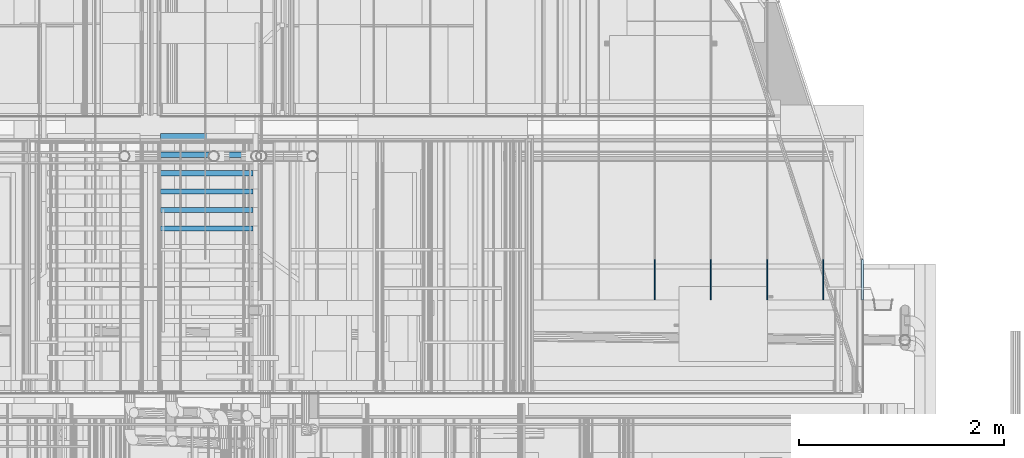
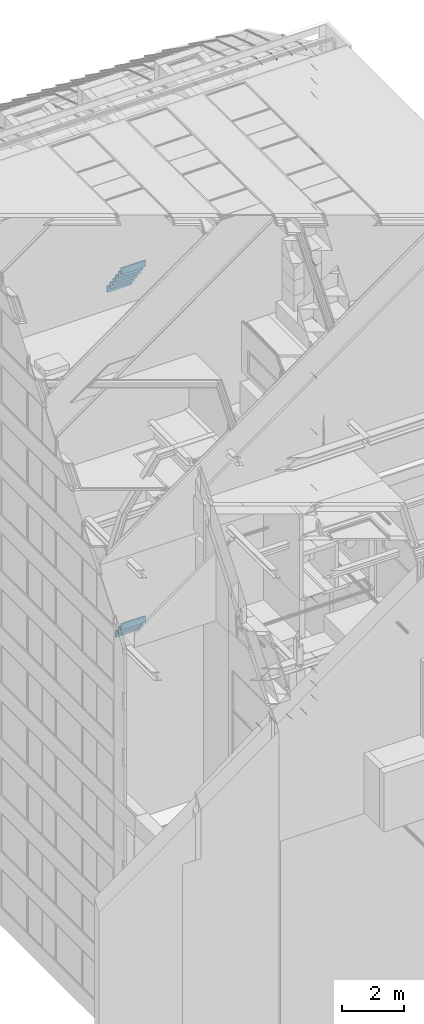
# One storey, part 310 of 583: 34 slabs.
"""IFC2X3 building model written with IfcOpenShell, lengths in metres."""

import ifcopenshell
import ifcopenshell.guid

model = None  # the IFC model being written
_history = None  # IfcOwnerHistory: only IFC2X3 demands one
_inside = {}  # id of a spatial element -> (the spatial element, [elements in it])
_under = {}  # id of a project, library or spatial element -> (it, [spatial elements below it])
_declared = {}  # id of a project -> (the project, [libraries it declares])
_typed = {}  # id of a type object -> (the type object, [elements of that type])
_made_of = {}  # id of a material, layer set ... -> (it, [elements and type objects made of it])


def new_model(schema):
    """Start an empty IFC model of exactly this schema.

    Asked for "IFC4X3", IfcOpenShell would pick the latest addendum, in which some entities
    have other attributes; the version numbers below select the first issue.
    IFC2X3 requires an IfcOwnerHistory on every rooted entity: one is made here for all.
    """
    global model, _history
    if schema == "IFC4X3":
        model = ifcopenshell.file(schema_version=(4, 3, 0, 0))
    else:
        model = ifcopenshell.file(schema=schema)
    _inside.clear()
    _under.clear()
    _declared.clear()
    _typed.clear()
    _made_of.clear()
    _history = None
    if model.schema == "IFC2X3":
        org = make("IfcOrganization", Name="unknown")
        user = make(
            "IfcPersonAndOrganization",
            ThePerson=make("IfcPerson", FamilyName="unknown"),
            TheOrganization=org,
        )
        app = make(
            "IfcApplication",
            ApplicationDeveloper=org,
            Version="unknown",
            ApplicationFullName="unknown",
            ApplicationIdentifier="unknown",
        )
        _history = make(
            "IfcOwnerHistory",
            OwningUser=user,
            OwningApplication=app,
            ChangeAction="ADDED",
            CreationDate=0,
        )
    return model


def make(cls, **values):
    """One entity of the class cls with the attributes given. An attribute that is None is left unset."""
    return model.create_entity(
        cls, **{name: value for name, value in values.items() if value is not None}
    )


def entity(cls, *values):
    """Any entity or typed value of the class cls, its attributes in the order of the schema. None: left unset."""
    e = model.create_entity(cls)
    for i, value in enumerate(values):
        if value is not None:
            e[i] = value
    return e


def rooted(cls, **values):
    """An entity with a GlobalId (a new one), such as an element, a storey or a relation."""
    return make(cls, GlobalId=ifcopenshell.guid.new(), OwnerHistory=_history, **values)


def si_unit(unit_type, name, prefix=None):
    """IfcSIUnit, for example si_unit("LENGTHUNIT", "METRE", prefix="MILLI")."""
    return make("IfcSIUnit", UnitType=unit_type, Prefix=prefix, Name=name)


def converted_unit(unit_type, name, factor, base, dimensions=None, offset=None):
    """IfcConversionBasedUnit, such as the inch: factor (a typed value) times the base unit."""
    return make(
        "IfcConversionBasedUnit"
        if offset is None
        else "IfcConversionBasedUnitWithOffset",
        ConversionOffset=offset,
        Dimensions=None
        if dimensions is None
        else entity("IfcDimensionalExponents", *dimensions),
        UnitType=unit_type,
        Name=name,
        ConversionFactor=make(
            "IfcMeasureWithUnit", ValueComponent=factor, UnitComponent=base
        ),
    )


def derived_unit(unit_type, elements):
    """IfcDerivedUnit: a product of units, each with its exponent."""
    return make(
        "IfcDerivedUnit",
        Elements=[
            make("IfcDerivedUnitElement", Unit=unit, Exponent=power)
            for unit, power in elements
        ],
        UnitType=unit_type,
    )


def money_unit(currency):
    """IfcMonetaryUnit."""
    return make("IfcMonetaryUnit", Currency=currency)


def assignment(units):
    """IfcUnitAssignment: the units of a project."""
    return None if units is None else make("IfcUnitAssignment", Units=units)


def point(xyz):
    """IfcCartesianPoint."""
    return None if xyz is None else make("IfcCartesianPoint", Coordinates=xyz)


def direction(xyz):
    """IfcDirection."""
    return None if xyz is None else make("IfcDirection", DirectionRatios=xyz)


def frame(location, z_axis=None, x_axis=None):
    """IfcAxis2Placement3D, a coordinate frame: its origin and axes. An axis left out is left unset."""
    return make(
        "IfcAxis2Placement3D",
        Location=point(location),
        Axis=direction(z_axis),
        RefDirection=direction(x_axis),
    )


def origin_with_axes():
    """The frame at (0, 0, 0) with the z axis (0, 0, 1) and the x axis (1, 0, 0) written out."""
    return frame((0.0, 0.0, 0.0), z_axis=(0.0, 0.0, 1.0), x_axis=(1.0, 0.0, 0.0))


def place(relative_to, where):
    """IfcLocalPlacement: puts the frame where relative to a parent placement (None: the world)."""
    return make(
        "IfcLocalPlacement", PlacementRelTo=relative_to, RelativePlacement=where
    )


def context(
    kind, dimensions, precision=None, world=None, true_north=None, identifier=None
):
    """IfcGeometricRepresentationContext, for example the 3D "Model" context."""
    return make(
        "IfcGeometricRepresentationContext",
        ContextIdentifier=identifier,
        ContextType=kind,
        CoordinateSpaceDimension=dimensions,
        Precision=precision,
        WorldCoordinateSystem=world,
        TrueNorth=true_north,
    )


def subcontext(parent, identifier, kind, view, scale=None):
    """IfcGeometricRepresentationSubContext, for example "Body" below "Model"."""
    return make(
        "IfcGeometricRepresentationSubContext",
        ContextIdentifier=identifier,
        ContextType=kind,
        ParentContext=parent,
        TargetScale=scale,
        TargetView=view,
    )


def project(units=None, contexts=None):
    """IfcProject with its units and contexts."""
    return rooted(
        "IfcProject",
        Name="project",
        RepresentationContexts=contexts,
        UnitsInContext=assignment(units),
    )


def spatial(cls, under=None, at=None, **own):
    """A site, building, storey or space (cls), placed at a placement, below another one or the project."""
    s = rooted(cls, ObjectPlacement=at, **own)
    if under is not None:
        _under.setdefault(under.id(), (under, []))[1].append(s)
    return s


def faces_of(points, faces, orient=None, outer=None):
    """IfcFace entities. A face is a list of loops; a loop is a list of indices into points, from 0.

    orient and outer hold one flag for each loop. By default every Orientation is true, the
    first loop of a face is its IfcFaceOuterBound and the others are IfcFaceBound.
    """
    made = []
    for i, loops in enumerate(faces):
        bounds = []
        for j, loop in enumerate(loops):
            is_outer = j == 0 if outer is None else outer[i][j]
            bounds.append(
                make(
                    "IfcFaceOuterBound" if is_outer else "IfcFaceBound",
                    Bound=make("IfcPolyLoop", Polygon=[points[k] for k in loop]),
                    Orientation=True if orient is None else orient[i][j],
                )
            )
        made.append(make("IfcFace", Bounds=bounds))
    return made


def faceted_brep(points, faces, orient=None, outer=None, voids=None):
    """IfcFacetedBrep: a solid bounded by flat faces; with voids (closed shells), ...WithVoids."""
    shared = [point(p) for p in points]
    hull = make("IfcClosedShell", CfsFaces=faces_of(shared, faces, orient, outer))
    if voids is None:
        return make("IfcFacetedBrep", Outer=hull)
    return make(
        "IfcFacetedBrepWithVoids",
        Outer=hull,
        Voids=[
            make(cls, CfsFaces=faces_of(shared, fs, o, b)) for cls, fs, o, b in voids
        ],
    )


def shape(context_of_items, identifier, shape_type, items):
    """IfcShapeRepresentation: the items that make up one representation, for example the "Body"."""
    return make(
        "IfcShapeRepresentation",
        ContextOfItems=context_of_items,
        RepresentationIdentifier=identifier,
        RepresentationType=shape_type,
        Items=items,
    )


def material(Name=None, Category=None):
    """IfcMaterial."""
    return make("IfcMaterial", Name=Name, Category=Category)


def made_of(thing, what):
    """Note that an element or type object is made of a material, layer set ...; save() writes the relation."""
    if what is not None:
        _made_of.setdefault(what.id(), (what, []))[1].append(thing)
    return thing


def type_object(cls, material=None, **own):
    """A type object (cls), such as IfcWallType, which elements share."""
    return made_of(rooted(cls, **own), material)


def element(
    cls,
    number,
    at=None,
    inside=None,
    cuts=None,
    type_object=None,
    material=None,
    context=None,
    identifier="Body",
    shape_type=None,
    held_by="IfcProductDefinitionShape",
    body=None,
    shapes=None,
    **own,
):
    """One element of the class cls, such as IfcWall. Its Tag is "e" and its number.

    at: its placement. inside: the storey or other place that contains it. cuts: it is an
    opening in that element (IfcRelVoidsElement). A single representation is given by context,
    identifier, shape_type and body (its items); several are given by shapes. held_by: the class
    of the entity that holds the representations. save() writes the other relations.
    """
    e = rooted(cls, Tag="e%d" % number, ObjectPlacement=at, **own)
    if body is not None:
        shapes = [shape(context, identifier, shape_type, body)]
    if shapes is not None:
        e.Representation = make(held_by, Representations=shapes)
    if inside is not None:
        _inside.setdefault(inside.id(), (inside, []))[1].append(e)
    if cuts is not None:
        rooted(
            "IfcRelVoidsElement", RelatingBuildingElement=cuts, RelatedOpeningElement=e
        )
    if type_object is not None:
        _typed.setdefault(type_object.id(), (type_object, []))[1].append(e)
    return made_of(e, material)


def aggregate(whole, parts):
    """IfcRelAggregates: a whole, such as a stair, and the parts it consists of."""
    return rooted("IfcRelAggregates", RelatingObject=whole, RelatedObjects=parts)


def save(model, path):
    """Write the relations noted so far, then the file.

    IfcRelAggregates (storeys below a building ...), IfcRelContainedInSpatialStructure (elements
    in a storey), IfcRelDefinesByType, IfcRelAssociatesMaterial and IfcRelDeclares: one each for
    every whole, place, type object, material and project.
    """
    for whole, parts in _under.values():
        aggregate(whole, parts)
    for where, things in _inside.values():
        rooted(
            "IfcRelContainedInSpatialStructure",
            RelatedElements=things,
            RelatingStructure=where,
        )
    for kind, things in _typed.values():
        rooted("IfcRelDefinesByType", RelatedObjects=things, RelatingType=kind)
    for what, things in _made_of.values():
        rooted("IfcRelAssociatesMaterial", RelatedObjects=things, RelatingMaterial=what)
    for by, libraries in _declared.values():
        rooted("IfcRelDeclares", RelatingContext=by, RelatedDefinitions=libraries)
    model.write(path)


model = new_model("IFC2X3")

# Units and contexts
model_context = context("Model", 3, precision=1e-05, world=origin_with_axes(), true_north=direction((0.0, 1.0)))
body_context = subcontext(model_context, "Body", "Model", "MODEL_VIEW", scale=1.0)
ifc_project = project(units=[si_unit("LENGTHUNIT", "METRE"), si_unit("AREAUNIT", "SQUARE_METRE"), si_unit("VOLUMEUNIT", "CUBIC_METRE"), si_unit("ABSORBEDDOSEUNIT", "GRAY"), si_unit("AMOUNTOFSUBSTANCEUNIT", "MOLE"), si_unit("DOSEEQUIVALENTUNIT", "SIEVERT"), si_unit("ELECTRICCAPACITANCEUNIT", "FARAD"), si_unit("ELECTRICCHARGEUNIT", "COULOMB"), si_unit("ELECTRICCONDUCTANCEUNIT", "SIEMENS"), si_unit("ELECTRICCURRENTUNIT", "AMPERE"), si_unit("ELECTRICRESISTANCEUNIT", "OHM"), si_unit("ELECTRICVOLTAGEUNIT", "VOLT"), si_unit("ENERGYUNIT", "JOULE"), si_unit("FORCEUNIT", "NEWTON"), si_unit("FREQUENCYUNIT", "HERTZ"), si_unit("ILLUMINANCEUNIT", "LUX"), si_unit("INDUCTANCEUNIT", "HENRY"), si_unit("LUMINOUSFLUXUNIT", "LUMEN"), si_unit("LUMINOUSINTENSITYUNIT", "CANDELA"), si_unit("MAGNETICFLUXDENSITYUNIT", "TESLA"), si_unit("MAGNETICFLUXUNIT", "WEBER"), si_unit("MASSUNIT", "GRAM"), converted_unit("PLANEANGLEUNIT", "degree", entity("IfcReal", 0.0174532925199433), si_unit("PLANEANGLEUNIT", "RADIAN"), dimensions=[0, 0, 0, 0, 0, 0, 0]), si_unit("POWERUNIT", "WATT"), si_unit("PRESSUREUNIT", "PASCAL"), si_unit("RADIOACTIVITYUNIT", "BECQUEREL"), si_unit("SOLIDANGLEUNIT", "STERADIAN"), si_unit("THERMODYNAMICTEMPERATUREUNIT", "KELVIN"), si_unit("TIMEUNIT", "SECOND"), derived_unit("ACCELERATIONUNIT", [(si_unit("LENGTHUNIT", "METRE"), 1), (si_unit("TIMEUNIT", "SECOND"), -2)]), derived_unit("ANGULARVELOCITYUNIT", [(converted_unit("PLANEANGLEUNIT", "degree", entity("IfcReal", 0.0174532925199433), si_unit("PLANEANGLEUNIT", "RADIAN"), dimensions=[0, 0, 0, 0, 0, 0, 0]), 1), (si_unit("TIMEUNIT", "SECOND"), -1)]), derived_unit("CURVATUREUNIT", [(converted_unit("PLANEANGLEUNIT", "degree", entity("IfcReal", 0.0174532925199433), si_unit("PLANEANGLEUNIT", "RADIAN"), dimensions=[0, 0, 0, 0, 0, 0, 0]), 1), (si_unit("LENGTHUNIT", "METRE"), -1)]), derived_unit("DYNAMICVISCOSITYUNIT", [(si_unit("PRESSUREUNIT", "PASCAL"), 1), (si_unit("TIMEUNIT", "SECOND"), 1)]), derived_unit("HEATFLUXDENSITYUNIT", [(si_unit("POWERUNIT", "WATT"), 1), (si_unit("LENGTHUNIT", "METRE"), -2)]), derived_unit("HEATINGVALUEUNIT", [(si_unit("ENERGYUNIT", "JOULE"), 1), (si_unit("MASSUNIT", "GRAM"), -1)]), derived_unit("INTEGERCOUNTRATEUNIT", [(si_unit("TIMEUNIT", "SECOND"), -1)]), derived_unit("IONCONCENTRATIONUNIT", [(si_unit("MASSUNIT", "GRAM"), 1), (si_unit("VOLUMEUNIT", "CUBIC_METRE"), -1)]), derived_unit("ISOTHERMALMOISTURECAPACITYUNIT", [(si_unit("VOLUMEUNIT", "CUBIC_METRE"), 1), (si_unit("MASSUNIT", "GRAM"), -1)]), derived_unit("KINEMATICVISCOSITYUNIT", [(si_unit("AREAUNIT", "SQUARE_METRE"), 1), (si_unit("TIMEUNIT", "SECOND"), -1)]), derived_unit("LINEARFORCEUNIT", [(si_unit("FORCEUNIT", "NEWTON"), 1), (si_unit("LENGTHUNIT", "METRE"), -1)]), derived_unit("LINEARMOMENTUNIT", [(si_unit("FORCEUNIT", "NEWTON"), 1), (si_unit("LENGTHUNIT", "METRE"), -1)]), derived_unit("LINEARSTIFFNESSUNIT", [(si_unit("FORCEUNIT", "NEWTON"), 1), (si_unit("LENGTHUNIT", "METRE"), -1)]), derived_unit("LINEARVELOCITYUNIT", [(si_unit("LENGTHUNIT", "METRE"), 1), (si_unit("TIMEUNIT", "SECOND"), -1)]), derived_unit("LUMINOUSINTENSITYDISTRIBUTIONUNIT", [(si_unit("LUMINOUSINTENSITYUNIT", "CANDELA"), 1), (si_unit("LUMINOUSFLUXUNIT", "LUMEN"), -1)]), derived_unit("MASSDENSITYUNIT", [(si_unit("MASSUNIT", "GRAM"), 1), (si_unit("VOLUMEUNIT", "CUBIC_METRE"), -1)]), derived_unit("MASSFLOWRATEUNIT", [(si_unit("MASSUNIT", "GRAM"), 1), (si_unit("TIMEUNIT", "SECOND"), -1)]), derived_unit("MASSPERLENGTHUNIT", [(si_unit("MASSUNIT", "GRAM"), 1), (si_unit("LENGTHUNIT", "METRE"), -1)]), derived_unit("MODULUSOFELASTICITYUNIT", [(si_unit("FORCEUNIT", "NEWTON"), 1), (si_unit("AREAUNIT", "SQUARE_METRE"), -1)]), derived_unit("MODULUSOFLINEARSUBGRADEREACTIONUNIT", [(si_unit("FORCEUNIT", "NEWTON"), 1), (si_unit("LENGTHUNIT", "METRE"), -2)]), derived_unit("MODULUSOFROTATIONALSUBGRADEREACTIONUNIT", [(si_unit("FORCEUNIT", "NEWTON"), 1), (si_unit("LENGTHUNIT", "METRE"), 1)]), derived_unit("MODULUSOFSUBGRADEREACTIONUNIT", [(si_unit("FORCEUNIT", "NEWTON"), 1), (si_unit("VOLUMEUNIT", "CUBIC_METRE"), -1)]), derived_unit("MOISTUREDIFFUSIVITYUNIT", [(si_unit("VOLUMEUNIT", "CUBIC_METRE"), 1), (si_unit("TIMEUNIT", "SECOND"), -1)]), derived_unit("MOLECULARWEIGHTUNIT", [(si_unit("MASSUNIT", "GRAM"), 1), (si_unit("AMOUNTOFSUBSTANCEUNIT", "MOLE"), -1)]), derived_unit("PLANARFORCEUNIT", [(si_unit("FORCEUNIT", "NEWTON"), 1), (si_unit("LENGTHUNIT", "METRE"), -2)]), derived_unit("ROTATIONALFREQUENCYUNIT", [(si_unit("TIMEUNIT", "SECOND"), -1)]), derived_unit("ROTATIONALMASSUNIT", [(si_unit("MASSUNIT", "GRAM"), 1), (si_unit("LENGTHUNIT", "METRE"), 2)]), derived_unit("ROTATIONALSTIFFNESSUNIT", [(si_unit("FORCEUNIT", "NEWTON"), 1), (si_unit("LENGTHUNIT", "METRE"), 1), (converted_unit("PLANEANGLEUNIT", "degree", entity("IfcReal", 0.0174532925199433), si_unit("PLANEANGLEUNIT", "RADIAN"), dimensions=[0, 0, 0, 0, 0, 0, 0]), -1)]), derived_unit("SECTIONAREAINTEGRALUNIT", [(si_unit("LENGTHUNIT", "METRE"), 5)]), derived_unit("SECTIONMODULUSUNIT", [(si_unit("LENGTHUNIT", "METRE"), 3)]), derived_unit("SHEARMODULUSUNIT", [(si_unit("FORCEUNIT", "NEWTON"), 1), (si_unit("AREAUNIT", "SQUARE_METRE"), -1)]), derived_unit("SOUNDPOWERUNIT", [(si_unit("ENERGYUNIT", "JOULE"), 1), (si_unit("TIMEUNIT", "SECOND"), -1)]), derived_unit("SPECIFICHEATCAPACITYUNIT", [(si_unit("FORCEUNIT", "NEWTON"), 1), (si_unit("MASSUNIT", "GRAM"), -1), (si_unit("THERMODYNAMICTEMPERATUREUNIT", "KELVIN"), -1)]), derived_unit("TEMPERATUREGRADIENTUNIT", [(si_unit("THERMODYNAMICTEMPERATUREUNIT", "KELVIN"), 1), (si_unit("LENGTHUNIT", "METRE"), -1)]), derived_unit("THERMALADMITTANCEUNIT", [(si_unit("POWERUNIT", "WATT"), 1), (si_unit("AREAUNIT", "SQUARE_METRE"), -1), (si_unit("THERMODYNAMICTEMPERATUREUNIT", "KELVIN"), -1)]), derived_unit("THERMALCONDUCTANCEUNIT", [(si_unit("POWERUNIT", "WATT"), 1), (si_unit("LENGTHUNIT", "METRE"), -1), (si_unit("THERMODYNAMICTEMPERATUREUNIT", "KELVIN"), -1)]), derived_unit("THERMALEXPANSIONCOEFFICIENTUNIT", [(si_unit("THERMODYNAMICTEMPERATUREUNIT", "KELVIN"), -1)]), derived_unit("THERMALRESISTANCEUNIT", [(si_unit("AREAUNIT", "SQUARE_METRE"), 1), (si_unit("POWERUNIT", "WATT"), -1)]), derived_unit("THERMALTRANSMITTANCEUNIT", [(si_unit("POWERUNIT", "WATT"), 1), (si_unit("AREAUNIT", "SQUARE_METRE"), -1), (si_unit("THERMODYNAMICTEMPERATUREUNIT", "KELVIN"), -1)]), derived_unit("TORQUEUNIT", [(si_unit("FORCEUNIT", "NEWTON"), 1), (si_unit("LENGTHUNIT", "METRE"), 1)]), derived_unit("VAPORPERMEABILITYUNIT", [(si_unit("MASSUNIT", "GRAM"), 1), (si_unit("TIMEUNIT", "SECOND"), -1)]), derived_unit("VOLUMETRICFLOWRATEUNIT", [(si_unit("VOLUMEUNIT", "CUBIC_METRE"), 1), (si_unit("TIMEUNIT", "SECOND"), -1)]), derived_unit("WARPINGCONSTANTUNIT", [(si_unit("LENGTHUNIT", "METRE"), 6)]), derived_unit("WARPINGMOMENTUNIT", [(si_unit("FORCEUNIT", "NEWTON"), 1), (si_unit("LENGTHUNIT", "METRE"), 2)]), money_unit("GBP")], contexts=[model_context])

# Site, building, storey
site_placement = place(None, origin_with_axes())
site = spatial("IfcSite", under=ifc_project, at=site_placement, Name="Site", CompositionType="ELEMENT")
building_placement = place(site_placement, origin_with_axes())
building = spatial("IfcBuilding", under=site, at=building_placement, Name="Building01", CompositionType="ELEMENT")
storey_placement = place(building_placement, frame((0.0, 0.0, 20.78), z_axis=(0.0, 0.0, 1.0), x_axis=(1.0, 0.0, 0.0)))
storey = spatial("IfcBuildingStorey", under=building, at=storey_placement, Name="RL", CompositionType="ELEMENT", Elevation=20.78)

# Slabs
ifc_material_1 = material(Name="A_BSUK_Slabs")
slab_type = type_object("IfcSlabType", Name="A-FloorsSlabs A_BSUK_Slabs", PredefinedType="FLOOR")
placement = place(storey_placement, frame((0.0, 0.0, -20.78), z_axis=(0.0, 0.0, 1.0), x_axis=(1.0, 0.0, 0.0)))
element("IfcSlab", 1, at=placement, inside=storey, type_object=slab_type, material=ifc_material_1, Name="A-FloorsSlabs A_BSUK_Slabs", ObjectType="CompoundSlabLeaf", context=body_context, shape_type="Brep", body=[
    faceted_brep([(7.549939, 16.91, 5.39), (7.549939, 16.96, 5.39), (7.549939, 16.96, 5.14), (7.549939, 16.91, 5.14), (8.449939, 16.91, 5.39), (8.449939, 16.96, 5.39), (8.449939, 16.91, 5.14), (8.449939, 16.96, 5.14)], [[[0, 1, 2, 3]], [[4, 5, 1, 0]], [[6, 7, 5, 4]], [[3, 2, 7, 6]], [[1, 5, 7, 2]], [[3, 6, 4, 0]]]),
])
element("IfcSlab", 2, at=placement, inside=storey, type_object=slab_type, material=ifc_material_1, Name="A-FloorsSlabs A_BSUK_Slabs", ObjectType="CompoundSlabLeaf", context=body_context, shape_type="Brep", body=[
    faceted_brep([(7.549939, 16.73, 5.64), (7.549939, 16.78, 5.64), (7.549939, 16.78, 5.39), (7.549939, 16.73, 5.39), (8.449939, 16.73, 5.64), (8.449939, 16.78, 5.64), (8.449939, 16.73, 5.39), (8.449939, 16.78, 5.39)], [[[0, 1, 2, 3]], [[4, 5, 1, 0]], [[6, 7, 5, 4]], [[3, 2, 7, 6]], [[1, 5, 7, 2]], [[3, 6, 4, 0]]]),
])
element("IfcSlab", 3, at=placement, inside=storey, type_object=slab_type, material=ifc_material_1, Name="A-FloorsSlabs A_BSUK_Slabs", ObjectType="CompoundSlabLeaf", context=body_context, shape_type="Brep", body=[
    faceted_brep([(7.549939, 16.55, 5.89), (7.549939, 16.6, 5.89), (7.549939, 16.6, 5.64), (7.549939, 16.55, 5.64), (8.449939, 16.55, 5.89), (8.449939, 16.6, 5.89), (8.449939, 16.55, 5.64), (8.449939, 16.6, 5.64)], [[[0, 1, 2, 3]], [[4, 5, 1, 0]], [[6, 7, 5, 4]], [[3, 2, 7, 6]], [[1, 5, 7, 2]], [[3, 6, 4, 0]]]),
])
element("IfcSlab", 4, at=placement, inside=storey, type_object=slab_type, material=ifc_material_1, Name="A-FloorsSlabs A_BSUK_Slabs", ObjectType="CompoundSlabLeaf", context=body_context, shape_type="Brep", body=[
    faceted_brep([(7.549915, 17.27, 18.789976), (7.549915, 17.32, 18.789976), (7.549915, 17.32, 18.539976), (7.549915, 17.27, 18.539976), (8.449915, 17.27, 18.789976), (8.449915, 17.32, 18.789976), (8.449915, 17.27, 18.539976), (8.449915, 17.32, 18.539976)], [[[0, 1, 2, 3]], [[4, 5, 1, 0]], [[6, 7, 5, 4]], [[3, 2, 7, 6]], [[1, 5, 7, 2]], [[3, 6, 4, 0]]]),
])
element("IfcSlab", 5, at=placement, inside=storey, type_object=slab_type, material=ifc_material_1, Name="A-FloorsSlabs A_BSUK_Slabs", ObjectType="CompoundSlabLeaf", context=body_context, shape_type="Brep", body=[
    faceted_brep([(7.549915, 17.09, 19.039976), (7.549915, 17.14, 19.039976), (7.549915, 17.14, 18.789976), (7.549915, 17.09, 18.789976), (8.449915, 17.09, 19.039976), (8.449915, 17.14, 19.039976), (8.449915, 17.09, 18.789976), (8.449915, 17.14, 18.789976)], [[[0, 1, 2, 3]], [[4, 5, 1, 0]], [[6, 7, 5, 4]], [[3, 2, 7, 6]], [[1, 5, 7, 2]], [[3, 6, 4, 0]]]),
])
element("IfcSlab", 6, at=placement, inside=storey, type_object=slab_type, material=ifc_material_1, Name="A-FloorsSlabs A_BSUK_Slabs", ObjectType="CompoundSlabLeaf", context=body_context, shape_type="Brep", body=[
    faceted_brep([(7.549915, 16.91, 19.289976), (7.549915, 16.96, 19.289976), (7.549915, 16.96, 19.039976), (7.549915, 16.91, 19.039976), (8.449915, 16.91, 19.289976), (8.449915, 16.96, 19.289976), (8.449915, 16.91, 19.039976), (8.449915, 16.96, 19.039976)], [[[0, 1, 2, 3]], [[4, 5, 1, 0]], [[6, 7, 5, 4]], [[3, 2, 7, 6]], [[1, 5, 7, 2]], [[3, 6, 4, 0]]]),
])
element("IfcSlab", 7, at=placement, inside=storey, type_object=slab_type, material=ifc_material_1, Name="A-FloorsSlabs A_BSUK_Slabs", ObjectType="CompoundSlabLeaf", context=body_context, shape_type="Brep", body=[
    faceted_brep([(7.549915, 16.73, 19.539976), (7.549915, 16.78, 19.539976), (7.549915, 16.78, 19.289976), (7.549915, 16.73, 19.289976), (8.449915, 16.73, 19.539976), (8.449915, 16.78, 19.539976), (8.449915, 16.73, 19.289976), (8.449915, 16.78, 19.289976)], [[[0, 1, 2, 3]], [[4, 5, 1, 0]], [[6, 7, 5, 4]], [[3, 2, 7, 6]], [[1, 5, 7, 2]], [[3, 6, 4, 0]]]),
])
element("IfcSlab", 8, at=placement, inside=storey, type_object=slab_type, material=ifc_material_1, Name="A-FloorsSlabs A_BSUK_Slabs", ObjectType="CompoundSlabLeaf", context=body_context, shape_type="Brep", body=[
    faceted_brep([(7.549915, 16.55, 19.789976), (7.549915, 16.6, 19.789976), (7.549915, 16.6, 19.539976), (7.549915, 16.55, 19.539976), (8.449915, 16.55, 19.789976), (8.449915, 16.6, 19.789976), (8.449915, 16.55, 19.539976), (8.449915, 16.6, 19.539976)], [[[0, 1, 2, 3]], [[4, 5, 1, 0]], [[6, 7, 5, 4]], [[3, 2, 7, 6]], [[1, 5, 7, 2]], [[3, 6, 4, 0]]]),
])
element("IfcSlab", 9, at=placement, inside=storey, type_object=slab_type, material=ifc_material_1, Name="A-FloorsSlabs A_BSUK_Slabs", ObjectType="CompoundSlabLeaf", context=body_context, shape_type="Brep", body=[
    faceted_brep([(7.549915, 17.45, 18.539976), (7.549915, 17.5, 18.539976), (7.549915, 17.5, 18.289976), (7.549915, 17.45, 18.289976), (8.449915, 17.45, 18.539976), (8.449915, 17.5, 18.539976), (8.449915, 17.45, 18.289976), (8.449915, 17.5, 18.289976)], [[[0, 1, 2, 3]], [[4, 5, 1, 0]], [[6, 7, 5, 4]], [[3, 2, 7, 6]], [[1, 5, 7, 2]], [[3, 6, 4, 0]]]),
])
ifc_material_2 = material(Name="A_BSUK_Roofs")
for number, where, z_axis, x_axis, name in (
    (10, (14.38, 15.034499, -9.464976), (0.0, 1.0, 0.0), (0.0, 0.0, -1.0), "A-FloorsSlabs A_BSUK_Slabs"),
    (11, (14.38, 15.034499, -11.654976), (0.0, 1.0, 0.0), (0.0, 0.0, -1.0), "A-FloorsSlabs A_BSUK_Slabs"),
    (12, (14.38, 15.034499, -13.844976), (0.0, 1.0, 0.0), (0.0, 0.0, -1.0), "A-FloorsSlabs A_BSUK_Slabs"),
):
    element("IfcSlab", number, at=place(storey_placement, frame(where, z_axis=z_axis, x_axis=x_axis)), inside=storey, type_object=slab_type, material=ifc_material_2, Name=name, ObjectType="A-FloorsSlabs A_BSUK_Slabs", context=body_context, shape_type="Brep", body=[
        faceted_brep([(0.0, 0.0, 0.845501), (0.0, -0.02, 0.845501), (0.0, -0.02, 1.239928), (0.0, 0.0, 1.239928), (0.01, 0.0, 0.845501), (0.01, -0.02, 0.845501), (0.01, 0.0, 1.239928), (0.01, -0.02, 1.239928)], [[[0, 1, 2, 3]], [[4, 5, 1, 0]], [[6, 7, 5, 4]], [[3, 2, 7, 6]], [[1, 5, 7, 2]], [[3, 6, 4, 0]]]),
    ])
for number, where, z_axis, x_axis, name in (
    (13, (14.38, 15.034499, -7.284976), (0.0, 1.0, 0.0), (0.0, 0.0, -1.0), "A-FloorsSlabs A_BSUK_Slabs"),
    (14, (14.38, 15.034499, -5.094976), (0.0, 1.0, 0.0), (0.0, 0.0, -1.0), "A-FloorsSlabs A_BSUK_Slabs"),
    (15, (14.38, 15.034499, -2.904976), (0.0, 1.0, 0.0), (0.0, 0.0, -1.0), "A-FloorsSlabs A_BSUK_Slabs"),
    (16, (14.38, 15.034499, -0.714976), (0.0, 1.0, 0.0), (0.0, 0.0, -1.0), "A-FloorsSlabs A_BSUK_Slabs"),
    (17, (14.38, 15.034499, 3.665024), (0.0, 1.0, 0.0), (0.0, 0.0, -1.0), "A-FloorsSlabs A_BSUK_Slabs"),
    (18, (14.38, 15.034499, 4.212524), (0.0, 1.0, 0.0), (0.0, 0.0, -1.0), "A-FloorsSlabs A_BSUK_Slabs"),
    (19, (14.38, 15.034499, 4.760024), (0.0, 1.0, 0.0), (0.0, 0.0, -1.0), "A-FloorsSlabs A_BSUK_Slabs"),
    (20, (14.38, 15.034499, 5.307524), (0.0, 1.0, 0.0), (0.0, 0.0, -1.0), "A-FloorsSlabs A_BSUK_Slabs"),
):
    element("IfcSlab", number, at=place(storey_placement, frame(where, z_axis=z_axis, x_axis=x_axis)), inside=storey, type_object=slab_type, material=ifc_material_2, Name=name, ObjectType="A-FloorsSlabs A_BSUK_Slabs", context=body_context, shape_type="Brep", body=[
        faceted_brep([(0.0, 0.0, 1.239928), (0.0, -0.02, 1.239928), (0.0, -0.02, 0.845501), (0.0, 0.0, 0.845501), (-0.01, -0.02, 0.845501), (-0.01, 0.0, 0.845501), (-0.01, -0.02, 1.239928), (-0.01, 0.0, 1.239928)], [[[0, 1, 2, 3]], [[3, 2, 4, 5]], [[5, 4, 6, 7]], [[7, 6, 1, 0]], [[1, 6, 4, 2]], [[3, 5, 7, 0]]]),
    ])
for number, where, z_axis, x_axis, name in (
    (21, (14.38, 15.034499, -18.224976), (0.0, 1.0, 0.0), (0.0, 0.0, -1.0), "A-FloorsSlabs A_BSUK_Slabs"),
    (22, (14.38, 15.034499, -18.772476), (0.0, 1.0, 0.0), (0.0, 0.0, -1.0), "A-FloorsSlabs A_BSUK_Slabs"),
    (23, (14.38, 15.034499, -19.319976), (0.0, 1.0, 0.0), (0.0, 0.0, -1.0), "A-FloorsSlabs A_BSUK_Slabs"),
    (24, (14.38, 15.034499, -19.867476), (0.0, 1.0, 0.0), (0.0, 0.0, -1.0), "A-FloorsSlabs A_BSUK_Slabs"),
):
    element("IfcSlab", number, at=place(storey_placement, frame(where, z_axis=z_axis, x_axis=x_axis)), inside=storey, type_object=slab_type, material=ifc_material_2, Name=name, ObjectType="A-FloorsSlabs A_BSUK_Slabs", context=body_context, shape_type="Brep", body=[
        faceted_brep([(0.0, 0.0, 0.845501), (0.0, -0.02, 0.845501), (0.0, -0.02, 1.239928), (0.0, 0.0, 1.239928), (0.01, 0.0, 0.845501), (0.01, -0.02, 0.845501), (0.01, 0.0, 1.239928), (0.01, -0.02, 1.239928)], [[[0, 1, 2, 3]], [[4, 5, 1, 0]], [[6, 7, 5, 4]], [[3, 2, 7, 6]], [[1, 5, 7, 2]], [[3, 6, 4, 0]]]),
    ])
for number, where, z_axis, x_axis, name in (
    (25, (14.38, 15.034499, 1.475024), (0.0, 1.0, 0.0), (0.0, 0.0, -1.0), "A-FloorsSlabs A_BSUK_Slabs"),
    (26, (14.38, 15.034499, -16.044976), (0.0, 1.0, 0.0), (0.0, 0.0, -1.0), "A-FloorsSlabs A_BSUK_Slabs"),
):
    element("IfcSlab", number, at=place(storey_placement, frame(where, z_axis=z_axis, x_axis=x_axis)), inside=storey, type_object=slab_type, material=ifc_material_2, Name=name, ObjectType="A-FloorsSlabs A_BSUK_Slabs", context=body_context, shape_type="Brep", body=[
        faceted_brep([(0.0, 0.0, 1.239928), (0.0, -0.02, 1.239928), (0.0, -0.02, 0.845501), (0.0, 0.0, 0.845501), (-0.01, -0.02, 0.845501), (-0.01, 0.0, 0.845501), (-0.01, -0.02, 1.239928), (-0.01, 0.0, 1.239928)], [[[0, 1, 2, 3]], [[3, 2, 4, 5]], [[5, 4, 6, 7]], [[7, 6, 1, 0]], [[1, 6, 4, 2]], [[3, 5, 7, 0]]]),
    ])
for number, where, z_axis, x_axis, name in (
    (27, (12.360953, 15.034499, 5.68), (0.0, 1.0, 0.0), (1.0, 0.0, 0.0), "A-FloorsSlabs A_BSUK_Slabs"),
    (28, (12.908453, 15.034499, 5.68), (0.0, 1.0, 0.0), (1.0, 0.0, 0.0), "A-FloorsSlabs A_BSUK_Slabs"),
    (29, (13.455953, 15.034499, 5.68), (0.0, 1.0, 0.0), (1.0, 0.0, 0.0), "A-FloorsSlabs A_BSUK_Slabs"),
    (30, (14.003453, 15.034499, 5.68), (0.0, 1.0, 0.0), (1.0, 0.0, 0.0), "A-FloorsSlabs A_BSUK_Slabs"),
):
    element("IfcSlab", number, at=place(storey_placement, frame(where, z_axis=z_axis, x_axis=x_axis)), inside=storey, type_object=slab_type, material=ifc_material_2, Name=name, ObjectType="A-FloorsSlabs A_BSUK_Slabs", context=body_context, shape_type="Brep", body=[
        faceted_brep([(0.0, 0.0, 0.845501), (0.0, -0.02, 0.845501), (0.0, -0.02, 1.239928), (0.0, 0.0, 1.239928), (0.01, 0.0, 0.845501), (0.01, -0.02, 0.845501), (0.01, 0.0, 1.239928), (0.01, -0.02, 1.239928)], [[[0, 1, 2, 3]], [[4, 5, 1, 0]], [[6, 7, 5, 4]], [[3, 2, 7, 6]], [[1, 5, 7, 2]], [[3, 6, 4, 0]]]),
    ])
for number, where, z_axis, x_axis, name in (
    (31, (12.360953, 15.034499, -20.26), (0.0, 1.0, 0.0), (-1.0, 0.0, 0.0), "A-FloorsSlabs A_BSUK_Slabs"),
    (32, (12.908453, 15.034499, -20.26), (0.0, 1.0, 0.0), (-1.0, 0.0, 0.0), "A-FloorsSlabs A_BSUK_Slabs"),
    (33, (13.455953, 15.034499, -20.26), (0.0, 1.0, 0.0), (-1.0, 0.0, 0.0), "A-FloorsSlabs A_BSUK_Slabs"),
    (34, (14.003453, 15.034499, -20.26), (0.0, 1.0, 0.0), (-1.0, 0.0, 0.0), "A-FloorsSlabs A_BSUK_Slabs"),
):
    element("IfcSlab", number, at=place(storey_placement, frame(where, z_axis=z_axis, x_axis=x_axis)), inside=storey, type_object=slab_type, material=ifc_material_2, Name=name, ObjectType="A-FloorsSlabs A_BSUK_Slabs", context=body_context, shape_type="Brep", body=[
        faceted_brep([(0.0, 0.0, 1.239928), (0.0, -0.02, 1.239928), (0.0, -0.02, 0.845501), (0.0, 0.0, 0.845501), (-0.01, -0.02, 0.845501), (-0.01, 0.0, 0.845501), (-0.01, -0.02, 1.239928), (-0.01, 0.0, 1.239928)], [[[0, 1, 2, 3]], [[3, 2, 4, 5]], [[5, 4, 6, 7]], [[7, 6, 1, 0]], [[1, 6, 4, 2]], [[3, 5, 7, 0]]]),
    ])

save(model, "model.ifc")
